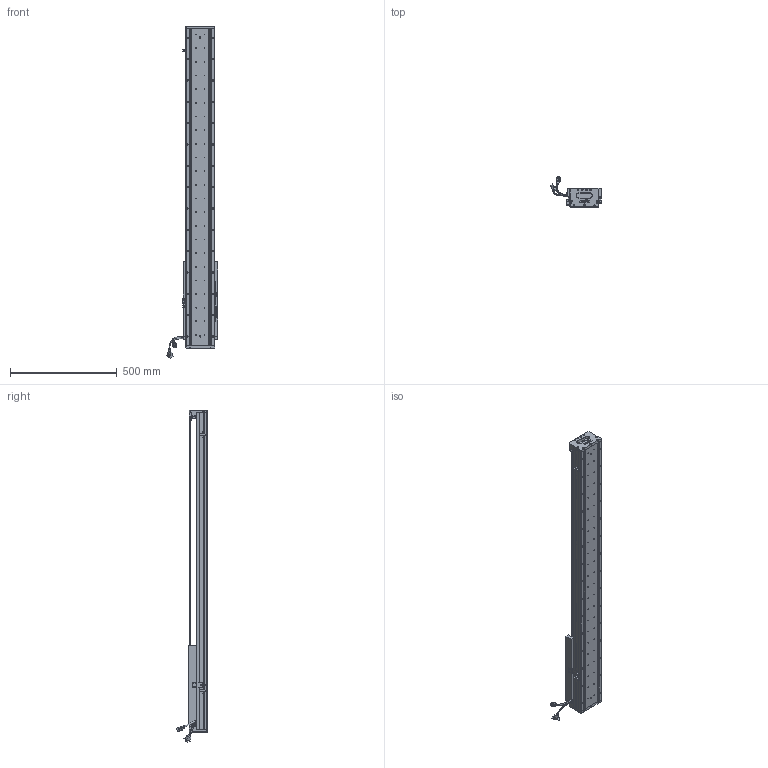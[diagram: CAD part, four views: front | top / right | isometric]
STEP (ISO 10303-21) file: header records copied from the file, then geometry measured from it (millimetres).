
FILE_DESCRIPTION (( 'STEP AP203' ), '1' );
FILE_NAME ('Z5-RY140D-1-L500-B-K.SLDASM_1050.step', '2021-05-17T08:35:51', ( '盈信电脑' ), ( '东莞市道滘镇水果街19号' ), 'SwSTEP 2.0', 'SolidWorks 2016', '' );
FILE_SCHEMA (( 'CONFIG_CONTROL_DESIGN' ));
Length unit declared in the file: millimetre
Products named in the file (36): PBU_SHEET; SCREW-M1.7; SCALE; Z-RY140感应器672光电感应片; HOLDER0; SEAL; 詩湍狟揤裔; LABEL; 覜茼ん672; SCALE-Part-1; COVER; HARNESS; SCREW-M1.6-2; SCALE-Part-2; SCREW-M1.7-1; 140蚥薯蝶輸; SCREW-M1.6-3; SEAL-Part-1; Z5-RY140圉猾敕臏賑輸(21遴); HARNESS-Part-1; 140-Z-臏賑輸盄裔(21遴); PSLH080_PSLF2; LABEL-Part-1; Z5-RY140-L500直线电机模组底座_1050; COVER-Part-1; 080黍杅芛假蚾釱21遴; SHIELDPLATE; Z-140詩湍傷裔啣; SCREW-M1.6-1; 詩湍奻揤裔; 140雄赽晤鎢ん堤盄; SCREW-M1.6; HARNESS-Part-2; Z5-RY140-L500詩湍100mm遵_1050; Z5-RY140D-1-L500-B-K.SLDASM_1050; 榋妏寠巭燃_暯_M2_2
Assembly tree (41 placements, depth 4):
  Z5-RY140D-1-L500-B-K.SLDASM_1050
    Z5-RY140-L500直线电机模组底座_1050
    Z-RY140感应器672光电感应片
    Z5-RY140圉猾敕臏賑輸(21遴)
    覜茼ん672  x3
    Z5-RY140-L500詩湍100mm遵_1050
    PSLH080_PSLF2
      SCALE
        SCALE-Part-1
        SCALE-Part-2
      HARNESS
        HARNESS-Part-1
        HARNESS-Part-2
      LABEL
        LABEL-Part-1
      COVER
        COVER-Part-1
      SEAL
        SEAL-Part-1
      榋妏寠巭燃_暯_M2_2
      SHIELDPLATE
      SCREW-M1.7
      SCREW-M1.7-1
      PBU_SHEET
      SCREW-M1.6
      SCREW-M1.6-1
      SCREW-M1.6-2
      SCREW-M1.6-3
      HOLDER0
    080黍杅芛假蚾釱21遴
    140-Z-臏賑輸盄裔(21遴)
    Z-140詩湍傷裔啣  x2
    詩湍狟揤裔  x2
    詩湍奻揤裔  x2
    140蚥薯蝶輸  x2
    140雄赽晤鎢ん堤盄
Bounding box: 239.83 x 143.88 x 1555.87 mm (x, y, z)
Volume: 5791455.3 mm3; surface area: 1461634 mm2
Topology: 36 solids, 36 shells, 3386 faces, 9034 edges, 5725 vertices
Faces by surface type: cylinder 1708, plane 1226, cone 330, torus 69, bspline 53
Entity records: 102590 total; most frequent: CARTESIAN_POINT 27001, ORIENTED_EDGE 15132, DIRECTION 14646, EDGE_CURVE 7566, AXIS2_PLACEMENT_3D 5434, VERTEX_POINT 4893, VECTOR 3778, LINE 3778
